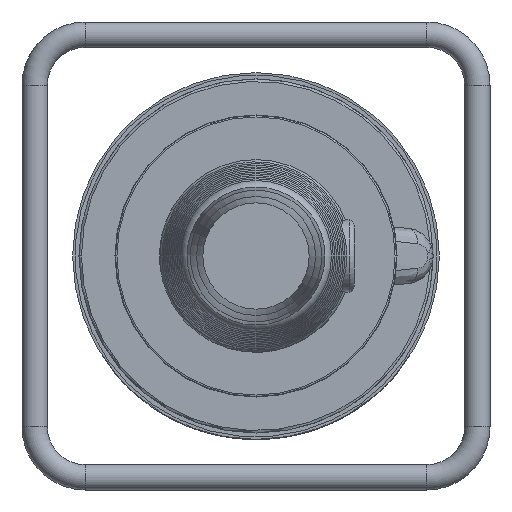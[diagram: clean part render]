
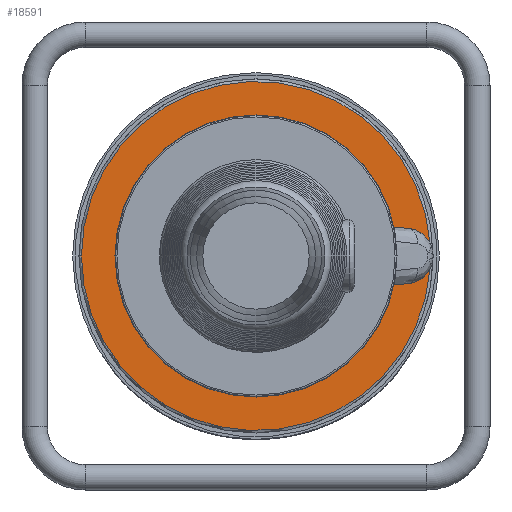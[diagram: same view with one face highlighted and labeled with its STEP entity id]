
A CAD part, left-side view. The second image highlights one B-rep face of the part: STEP entity #18591.
In plain terms, the highlighted planar face has unit normal (-1, 0, 0).
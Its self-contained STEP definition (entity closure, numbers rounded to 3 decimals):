
#985=PLANE('',#19743);
#2902=LINE('',#42014,#4005);
#2908=LINE('',#42357,#4011);
#4005=VECTOR('',#23039,10.);
#4011=VECTOR('',#23095,10.);
#5059=FACE_OUTER_BOUND('',#6165,.T.);
#6165=EDGE_LOOP('',(#16401,#16402,#16403,#16404,#16405,#16406,#16407,#16408,
#16409));
#6387=CIRCLE('',#18856,138.);
#6703=CIRCLE('',#19672,10.);
#6710=CIRCLE('',#19682,22.);
#6711=CIRCLE('',#19683,22.);
#6725=CIRCLE('',#19704,10.);
#6726=CIRCLE('',#19707,138.);
#6749=CIRCLE('',#19742,91.5);
#7122=VERTEX_POINT('',#24320);
#7125=VERTEX_POINT('',#24326);
#8603=VERTEX_POINT('',#41952);
#8604=VERTEX_POINT('',#41954);
#8613=VERTEX_POINT('',#42012);
#8616=VERTEX_POINT('',#42033);
#8617=VERTEX_POINT('',#42036);
#8632=VERTEX_POINT('',#42338);
#8633=VERTEX_POINT('',#42353);
#8993=EDGE_CURVE('',#7125,#7122,#6387,.T.);
#11206=EDGE_CURVE('',#8604,#8603,#6703,.T.);
#11219=EDGE_CURVE('',#8603,#8613,#2902,.T.);
#11223=EDGE_CURVE('',#7125,#8616,#6710,.T.);
#11225=EDGE_CURVE('',#8613,#8617,#6711,.T.);
#11252=EDGE_CURVE('',#8633,#8632,#6725,.T.);
#11254=EDGE_CURVE('',#8616,#8633,#2908,.T.);
#11255=EDGE_CURVE('',#7122,#8617,#6726,.T.);
#11281=EDGE_CURVE('',#8632,#8604,#6749,.T.);
#16401=ORIENTED_EDGE('',*,*,#11225,.T.);
#16402=ORIENTED_EDGE('',*,*,#11255,.F.);
#16403=ORIENTED_EDGE('',*,*,#8993,.F.);
#16404=ORIENTED_EDGE('',*,*,#11223,.T.);
#16405=ORIENTED_EDGE('',*,*,#11254,.T.);
#16406=ORIENTED_EDGE('',*,*,#11252,.T.);
#16407=ORIENTED_EDGE('',*,*,#11281,.T.);
#16408=ORIENTED_EDGE('',*,*,#11206,.T.);
#16409=ORIENTED_EDGE('',*,*,#11219,.T.);
#18591=ADVANCED_FACE('',(#5059),#985,.T.);
#18856=AXIS2_PLACEMENT_3D('',#24337,#20366,#20367);
#19672=AXIS2_PLACEMENT_3D('',#41955,#23019,#23020);
#19682=AXIS2_PLACEMENT_3D('',#42035,#23043,#23044);
#19683=AXIS2_PLACEMENT_3D('',#42047,#23045,#23046);
#19704=AXIS2_PLACEMENT_3D('',#42354,#23090,#23091);
#19707=AXIS2_PLACEMENT_3D('',#42359,#23098,#23099);
#19742=AXIS2_PLACEMENT_3D('',#42411,#23171,#23172);
#19743=AXIS2_PLACEMENT_3D('',#42412,#23173,#23174);
#20366=DIRECTION('center_axis',(1.,0.,0.));
#20367=DIRECTION('ref_axis',(0.,0.,
1.));
#23019=DIRECTION('center_axis',(-1.,0.,0.));
#23020=DIRECTION('ref_axis',(0.,0.934,-0.358));
#23039=DIRECTION('',(0.,-0.996,-0.087));
#23043=DIRECTION('center_axis',(1.,0.,0.));
#23044=DIRECTION('ref_axis',(0.,0.087,0.996));
#23045=DIRECTION('center_axis',(1.,0.,0.));
#23046=DIRECTION('ref_axis',(0.,0.087,0.996));
#23090=DIRECTION('center_axis',(-1.,0.,0.));
#23091=DIRECTION('ref_axis',(0.,0.087,0.996));
#23095=DIRECTION('',(0.,0.996,-0.087));
#23098=DIRECTION('center_axis',(1.,0.,0.));
#23099=DIRECTION('ref_axis',(0.,0.,
1.));
#23171=DIRECTION('center_axis',(1.,0.,0.));
#23172=DIRECTION('ref_axis',(0.,0.,
1.));
#23173=DIRECTION('center_axis',(-1.,0.,0.));
#23174=DIRECTION('ref_axis',(0.,1.,0.));
#24320=CARTESIAN_POINT('',(-17.009,137.996,0.));
#24326=CARTESIAN_POINT('',(-17.009,-137.649,-9.905));
#24337=CARTESIAN_POINT('Origin',(-17.009,-0.004,
0.));
#41952=CARTESIAN_POINT('',(-17.009,-89.231,24.601));
#41954=CARTESIAN_POINT('',(-17.009,-88.088,24.768));
#41955=CARTESIAN_POINT('Origin',(-17.009,-90.102,34.563));
#42012=CARTESIAN_POINT('',(-17.009,-119.922,21.916));
#42014=CARTESIAN_POINT('',(-17.009,-41.043,28.817));
#42033=CARTESIAN_POINT('',(-17.009,-119.922,-21.916));
#42035=CARTESIAN_POINT('Origin',(-17.009,-118.004,0.));
#42036=CARTESIAN_POINT('',(-17.009,-137.649,9.905));
#42047=CARTESIAN_POINT('Origin',(-17.009,-118.004,0.));
#42338=CARTESIAN_POINT('',(-17.009,-88.088,-24.768));
#42353=CARTESIAN_POINT('',(-17.009,-89.231,-24.601));
#42354=CARTESIAN_POINT('Origin',(-17.009,-90.102,-34.563));
#42357=CARTESIAN_POINT('',(-17.009,-66.352,-26.603));
#42359=CARTESIAN_POINT('Origin',(-17.009,-0.004,
0.));
#42411=CARTESIAN_POINT('Origin',(-17.009,-0.004,
0.));
#42412=CARTESIAN_POINT('Origin',(-17.009,-0.004,
114.75));
